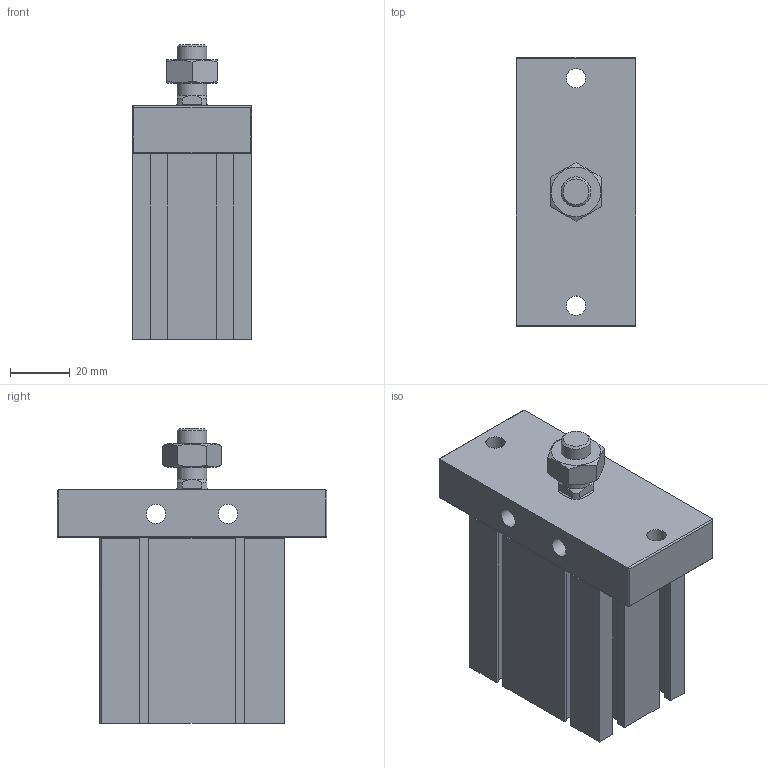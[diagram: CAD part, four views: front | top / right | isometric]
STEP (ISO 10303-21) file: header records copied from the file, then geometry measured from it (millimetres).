
FILE_DESCRIPTION((''),'2;1');
FILE_NAME('J:\3D電子目錄\氣缸\ND\ND\ND32-FBS\ND32x20-FBS.stp','2008-03-13T10:09:59',('66-2f-008'),(''),'Autodesk Inventor 11','Autodesk Inventor 11','');
FILE_SCHEMA(('AUTOMOTIVE_DESIGN { 1 0 10303 214 1 1 1 1 }'));
Length unit declared in the file: millimetre
Products named in the file (1): ND32-FBS
Bounding box: 40 x 90 x 98.5 mm (x, y, z)
Volume: 191233.5 mm3; surface area: 36158.4 mm2
Topology: 2 solids, 2 shells, 154 faces, 393 edges, 252 vertices
Faces by surface type: plane 99, cylinder 23, cone 15, bspline 14, sphere 2, torus 1
Full cylindrical faces by diameter (mm): 2.2 x2, 6.5 x2, 10 x2, 23 x1, 34 x1, 36 x1
Entity records: 4540 total; most frequent: CARTESIAN_POINT 979, ORIENTED_EDGE 710, DIRECTION 702, EDGE_CURVE 355, VECTOR 250, LINE 250, VERTEX_POINT 247, AXIS2_PLACEMENT_3D 226
